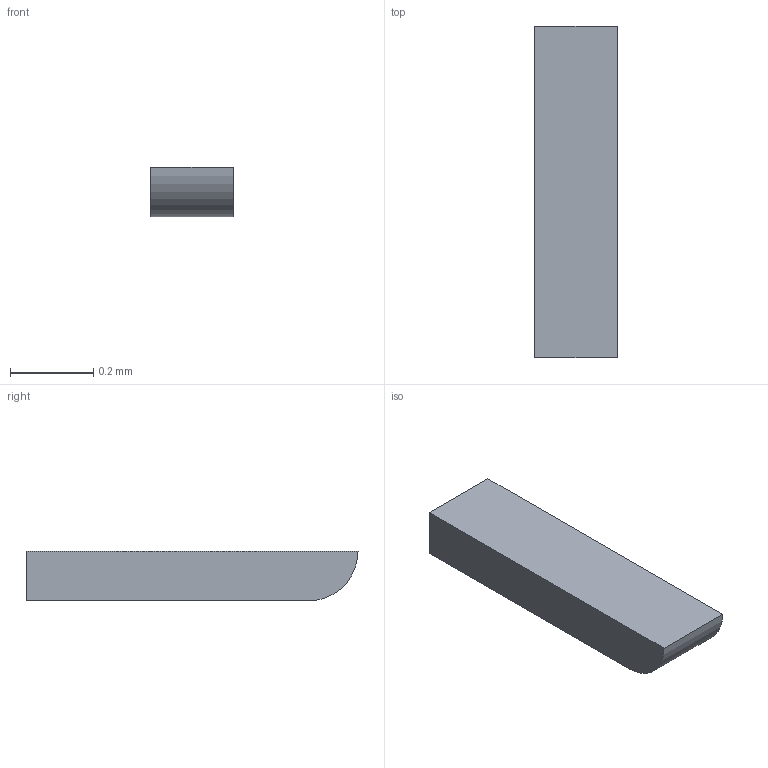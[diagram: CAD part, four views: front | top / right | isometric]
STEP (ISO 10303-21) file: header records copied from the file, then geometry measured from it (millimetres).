
FILE_DESCRIPTION(/* description */ ('STEP AP242 Edition 2','CAx-IF Rec.Pracs.---Representation and Presentation of Product Manufacturing Information (PMI)---4.0---2014-10-13','CAx-IF Rec.Pracs.---3D Tessellated Geometry---0.4---2014-09-14','2;1','CAx-IF Rec.Pracs.---User Defined Attributes---1.5---2016-08-15'),/* implementation_level */ '2;1');
FILE_NAME(/* name */ 'v2_assembly - USB_C_Receptacle_GCT_USB4105-xx-A_16P_TopMnt_Horizontal (17)',/* time_stamp */ '2026-05-19T16:26:08Z',/* author */ (''),/* organization */ (''),/* preprocessor_version */ 'ST-DEVELOPER v20',/* originating_system */ 'ONSHAPE BY PTC INC, 1.215',/* authorisation */ ' ');
FILE_SCHEMA (('AP242_MANAGED_MODEL_BASED_3D_ENGINEERING_MIM_LF { 1 0 10303 442 3 1 4 }'));
Length unit declared in the file: metre
Products named in the file (1): USB_C_Receptacle_GCT_USB4105-xx-A_16P_TopMnt_Horizontal
Bounding box: 0.2 x 0.8 x 0.12 mm (x, y, z)
Volume: 0 mm3; surface area: 0.5 mm2
Topology: 1 solids, 1 shells, 6 faces, 12 edges, 8 vertices
Faces by surface type: plane 5, cylinder 1
Entity records: 223 total; most frequent: DIRECTION 28, CARTESIAN_POINT 27, ORIENTED_EDGE 24, EDGE_CURVE 12, LINE 10, VECTOR 10, AXIS2_PLACEMENT_3D 9, VERTEX_POINT 8
